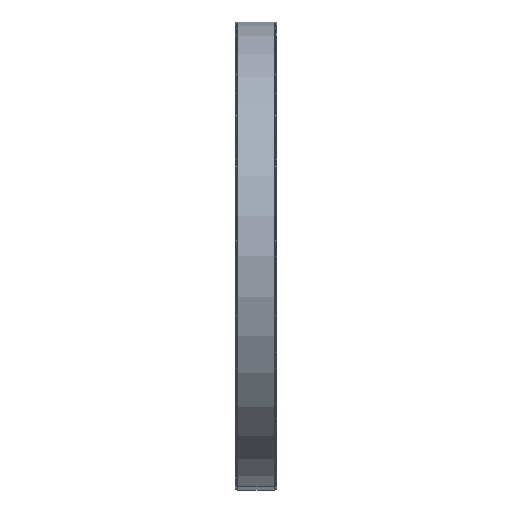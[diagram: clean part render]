
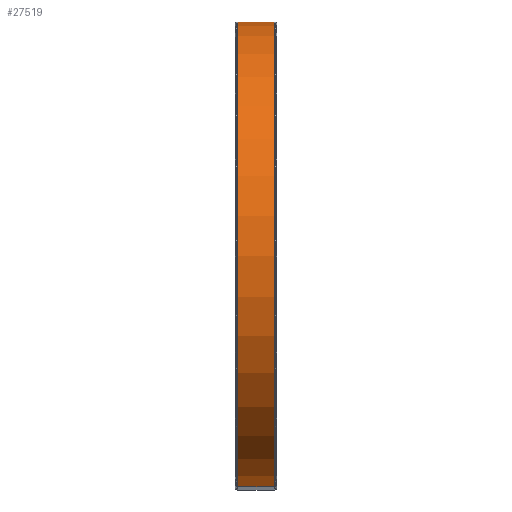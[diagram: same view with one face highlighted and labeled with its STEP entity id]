
A CAD part, front view. The second image highlights one B-rep face of the part: STEP entity #27519.
In plain terms, the highlighted cylindrical face has radius 56.975 mm (diameter 113.95 mm), a partial arc.
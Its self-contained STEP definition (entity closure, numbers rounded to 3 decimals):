
#508 = DIRECTION ( 'NONE',  ( 1., 0., 0. ) ) ;
#879 = CARTESIAN_POINT ( 'NONE',  ( -6.206, 11.262, 52.791 ) ) ;
#1030 = ORIENTED_EDGE ( 'NONE', *, *, #17663, .F. ) ;
#1983 = CARTESIAN_POINT ( 'NONE',  ( -6.206, -8.316, -59.465 ) ) ;
#2540 = DIRECTION ( 'NONE',  ( -1., 0., 0. ) ) ;
#2622 = CARTESIAN_POINT ( 'NONE',  ( 2.794, 1.473, -3.337 ) ) ;
#3354 = CARTESIAN_POINT ( 'NONE',  ( 2.794, 11.262, 52.791 ) ) ;
#3773 = ORIENTED_EDGE ( 'NONE', *, *, #5875, .T. ) ;
#3890 = CARTESIAN_POINT ( 'NONE',  ( -6.206, 1.473, -3.337 ) ) ;
#4050 = VECTOR ( 'NONE', #6561, 1000. ) ;
#4084 = AXIS2_PLACEMENT_3D ( 'NONE', #3890, #18975, #14867 ) ;
#4490 = EDGE_LOOP ( 'NONE', ( #1030, #16136, #3773, #18076 ) ) ;
#4984 = AXIS2_PLACEMENT_3D ( 'NONE', #2622, #508, #17686 ) ;
#5875 = EDGE_CURVE ( 'NONE', #8583, #8750, #25662, .T. ) ;
#6561 = DIRECTION ( 'NONE',  ( -1., 0., 0. ) ) ;
#6681 = CYLINDRICAL_SURFACE ( 'NONE', #8094, 56.975 ) ;
#8094 = AXIS2_PLACEMENT_3D ( 'NONE', #14152, #25152, #26704 ) ;
#8583 = VERTEX_POINT ( 'NONE', #879 ) ;
#8750 = VERTEX_POINT ( 'NONE', #1983 ) ;
#8774 = CARTESIAN_POINT ( 'NONE',  ( 2.794, -8.316, -59.465 ) ) ;
#11043 = CARTESIAN_POINT ( 'NONE',  ( 2.794, 11.262, 52.791 ) ) ;
#13201 = LINE ( 'NONE', #21835, #13536 ) ;
#13536 = VECTOR ( 'NONE', #2540, 1000. ) ;
#14152 = CARTESIAN_POINT ( 'NONE',  ( 2.794, 1.473, -3.337 ) ) ;
#14867 = DIRECTION ( 'NONE',  ( 0., 0.172, 0.985 ) ) ;
#16136 = ORIENTED_EDGE ( 'NONE', *, *, #16604, .T. ) ;
#16604 = EDGE_CURVE ( 'NONE', #23957, #8583, #25752, .T. ) ;
#17428 = FACE_OUTER_BOUND ( 'NONE', #4490, .T. ) ;
#17478 = VERTEX_POINT ( 'NONE', #8774 ) ;
#17663 = EDGE_CURVE ( 'NONE', #23957, #17478, #23900, .T. ) ;
#17686 = DIRECTION ( 'NONE',  ( 0., 0.172, 0.985 ) ) ;
#18076 = ORIENTED_EDGE ( 'NONE', *, *, #18727, .F. ) ;
#18727 = EDGE_CURVE ( 'NONE', #17478, #8750, #13201, .T. ) ;
#18975 = DIRECTION ( 'NONE',  ( 1., 0., 0. ) ) ;
#21835 = CARTESIAN_POINT ( 'NONE',  ( 2.794, -8.316, -59.465 ) ) ;
#23900 = CIRCLE ( 'NONE', #4984, 56.975 ) ;
#23957 = VERTEX_POINT ( 'NONE', #3354 ) ;
#25152 = DIRECTION ( 'NONE',  ( -1., 0., 0. ) ) ;
#25662 = CIRCLE ( 'NONE', #4084, 56.975 ) ;
#25752 = LINE ( 'NONE', #11043, #4050 ) ;
#26704 = DIRECTION ( 'NONE',  ( 0., -0.172, -0.985 ) ) ;
#27519 = ADVANCED_FACE ( 'NONE', ( #17428 ), #6681, .T. ) ;
